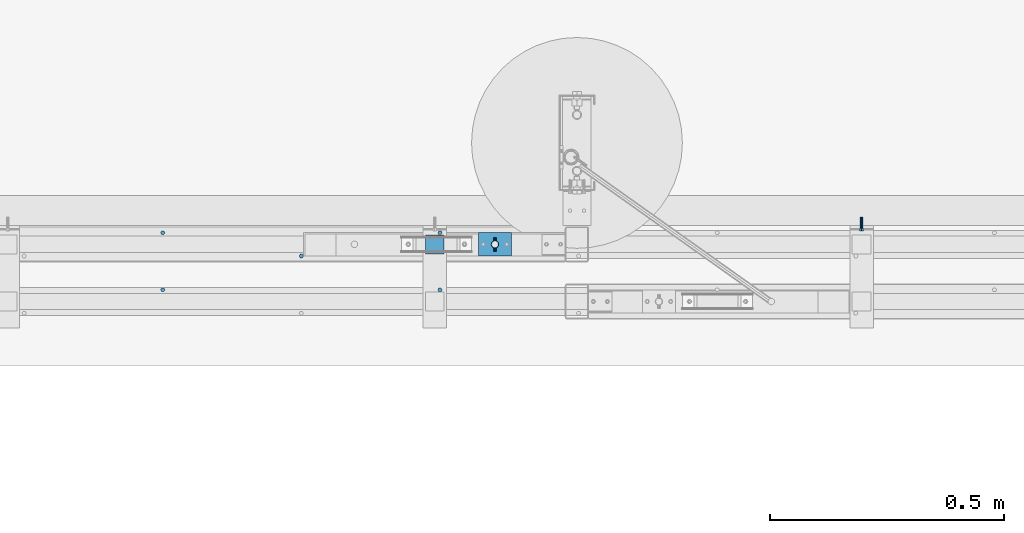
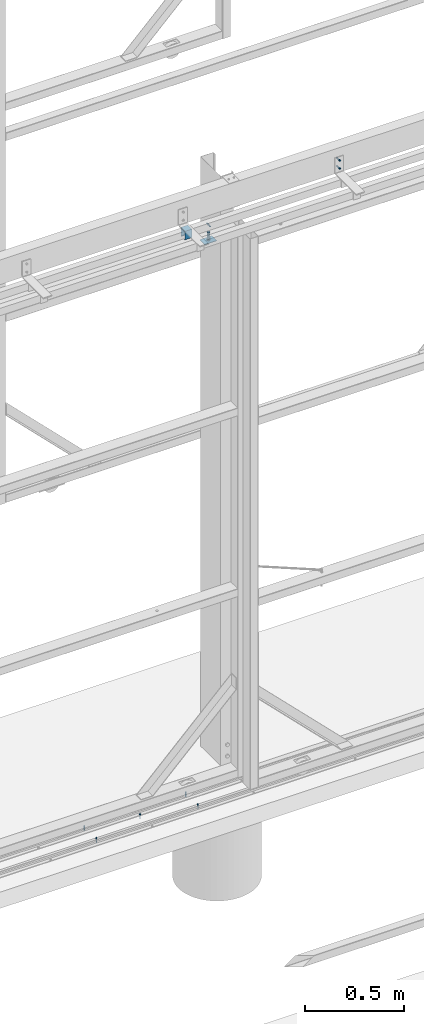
# One storey, part 40 of 91: 7 mechanical fasteners, 3 discrete accessories, 6 elements without a shape of their own.
"""IFC2X3 building model written with IfcOpenShell, lengths in millimetres."""

from ifc_helpers import new_model, si_unit, frame, origin_with_axes, origin_2d_with_axis, place, context, subcontext, project, spatial, polyline, circle, c_section, outline, extrude, source, transform, mapped, material, type_object, element, aggregate, save


model = new_model("IFC2X3")

# Units and contexts
model_context = context("Model", 3, precision=1e-05, world=origin_with_axes())
body_context = subcontext(model_context, "Body", "Model", "MODEL_VIEW")
ifc_project = project(units=[si_unit("LENGTHUNIT", "METRE", prefix="MILLI"), si_unit("AREAUNIT", "SQUARE_METRE"), si_unit("VOLUMEUNIT", "CUBIC_METRE"), si_unit("MASSUNIT", "GRAM", prefix="KILO"), si_unit("TIMEUNIT", "SECOND"), si_unit("PLANEANGLEUNIT", "RADIAN"), si_unit("SOLIDANGLEUNIT", "STERADIAN"), si_unit("THERMODYNAMICTEMPERATUREUNIT", "DEGREE_CELSIUS"), si_unit("LUMINOUSINTENSITYUNIT", "LUMEN")], contexts=[model_context])

# Site, building, storey
site_placement = place(None, origin_with_axes())
site = spatial("IfcSite", under=ifc_project, at=site_placement, Name="Undefined", CompositionType="ELEMENT")
building_placement = place(site_placement, origin_with_axes())
building = spatial("IfcBuilding", under=site, at=building_placement, Name="Undefined", CompositionType="ELEMENT")
storey_placement = place(building_placement, origin_with_axes())
storey = spatial("IfcBuildingStorey", under=building, at=storey_placement, Name="Undefined", CompositionType="ELEMENT", Elevation=0.0)

# Assembly, discrete accessory
assembly_1_placement = place(storey_placement, origin_with_axes())
assembly_1 = element("IfcElementAssembly", 1, at=assembly_1_placement, inside=storey, Name="ROD", AssemblyPlace="NOTDEFINED", PredefinedType="RIGID_FRAME")
ifc_material_1 = material(Name="STEEL/250")
discrete_accessory_type_1 = type_object("IfcDiscreteAccessoryType", Name="PLATE")
discrete_accessory_1_placement = place(assembly_1_placement, frame((-113968.34, 87737.15, 3324.5), z_axis=(0.0, 0.0, 1.0), x_axis=(0.0, -1.0, 0.0)))
discrete_accessory_1 = element("IfcDiscreteAccessory", 2, at=discrete_accessory_1_placement, type_object=discrete_accessory_type_1, material=ifc_material_1, Name="PLATE", ObjectType="PLT3*50", context=body_context, shape_type="SweptSolid", body=[
    extrude(outline(polyline([(0.0, 0.0), (50.0, 0.0), (50.0, 70.0), (0.0, 70.0), (0.0, 0.0)])), frame((0.0, 0.0, -1.5), z_axis=(0.0, 0.0, 1.0), x_axis=(1.0, 0.0, 0.0)), (0.0, 0.0, 1.0), 3.0),
])

# Assembly, mechanical fastener
assembly_2_placement = place(storey_placement, origin_with_axes())
assembly_2 = element("IfcElementAssembly", 3, at=assembly_2_placement, inside=storey, Name="SLIDING DOOR", AssemblyPlace="NOTDEFINED", PredefinedType="RIGID_FRAME")
ifc_material_2 = material(Name="8.8S")
discrete_accessory_type_2 = type_object("IfcDiscreteAccessoryType", Name="Bolt assembly")
shared_shape_1 = source(origin_with_axes(), body_context, "Body", "SweptSolid", [
    extrude(circle(Radius=8.0, at=origin_2d_with_axis()), frame((0.0, 0.0, 0.0), z_axis=(0.0, 1.0, 0.0), x_axis=(1.0, 0.0, 0.0)), (0.0, 0.0, 1.0), 50.1),
])
mechanical_fastener_1_placement = place(assembly_2_placement, frame((-113933.34, 87712.15, 3326.0), z_axis=(0.0, 1.0, 0.0), x_axis=(-1.0, 0.0, 0.0)))
mechanical_fastener_1 = element("IfcMechanicalFastener", 4, at=mechanical_fastener_1_placement, type_object=discrete_accessory_type_2, material=ifc_material_2, Name="Bolt assembly", NominalDiameter=10.0, NominalLength=50.0, context=body_context, shape_type="MappedRepresentation", body=[
    mapped(shared_shape_1, transform((0.0, 0.0, 0.0))),
])
aggregate(assembly_2, [mechanical_fastener_1])

# Discrete accessory
discrete_accessory_type_3 = type_object("IfcDiscreteAccessoryType", Name="SPRING PIN")
discrete_accessory_2_placement = place(assembly_1_placement, frame((-113933.34, 87697.15, 3421.0), z_axis=(1.0, 0.0, 0.0), x_axis=(0.0, 1.0, 0.0)))
discrete_accessory_2 = element("IfcDiscreteAccessory", 5, at=discrete_accessory_2_placement, type_object=discrete_accessory_type_3, material=ifc_material_1, Name="SPRING PIN", ObjectType="D6", context=body_context, shape_type="SweptSolid", body=[
    extrude(circle(Radius=3.0, at=origin_2d_with_axis()), frame((30.0, 0.0, 0.0), z_axis=(-1.0, 0.0, 0.0), x_axis=(0.0, -1.0, 0.0)), (0.0, 0.0, 1.0), 30.0),
])

aggregate(assembly_1, [discrete_accessory_2, discrete_accessory_1])

# Assembly, mechanical fastener
assembly_3_placement = place(storey_placement, origin_with_axes())
assembly_3 = element("IfcElementAssembly", 6, at=assembly_3_placement, inside=storey, Name="DOOR BRACKET", AssemblyPlace="NOTDEFINED", PredefinedType="RIGID_FRAME")
ifc_material_3 = material(Name="TEK_11TPIM")
shared_shape_2 = source(origin_with_axes(), body_context, "Body", "SweptSolid", [
    extrude(circle(Radius=3.0, at=origin_2d_with_axis()), frame((0.0, -6.0, 0.0), z_axis=(0.0, 1.0, 0.0), x_axis=(1.0, 0.0, 0.0)), (0.0, 0.0, 1.0), 6.1),
    extrude(outline(polyline([(4.61880215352, 0.0), (2.30940107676, 4.00000000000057), (-2.30940107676, 4.00000000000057), (-4.61880215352, 0.0), (-2.30940107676, -4.00000000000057), (2.30940107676, -4.00000000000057), (4.61880215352, 0.0)])), frame((0.0, -11.1000000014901, 0.0), z_axis=(0.0, 1.0, 0.0), x_axis=(1.0, 0.0, 0.0)), (0.0, 0.0, 1.0), 5.0),
    extrude(circle(Radius=3.0, at=origin_2d_with_axis()), frame((0.0, -6.10000000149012, 0.0), z_axis=(0.0, 1.0, 0.0), x_axis=(1.0, 0.0, 0.0)), (0.0, 0.0, 1.0), 25.0),
    extrude(circle(Radius=3.0, at=origin_2d_with_axis()), frame((0.0, -6.10000000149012, 0.0), z_axis=(0.0, 1.0, 0.0), x_axis=(1.0, 0.0, 0.0)), (0.0, 0.0, 1.0), 0.1),
    extrude(circle(Radius=3.0, at=origin_2d_with_axis()), frame((0.0, 0.0, 0.0), z_axis=(0.0, 1.0, 0.0), x_axis=(1.0, 0.0, 0.0)), (0.0, 0.0, 1.0), 0.1),
    extrude(outline(polyline([(3.46410161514, 0.0), (1.73205080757, 3.00000000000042), (-1.73205080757, 3.00000000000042), (-3.46410161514, 0.0), (-1.73205080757, -3.00000000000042), (1.73205080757, -3.00000000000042), (3.46410161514, 0.0)])), frame((0.0, 0.1, 0.0), z_axis=(0.0, 1.0, 0.0), x_axis=(1.0, 0.0, 0.0)), (0.0, 0.0, 1.0), 0.1),
])
mechanical_fastener_2_placement = place(assembly_3_placement, frame((-113150.84, 87752.15, 3524.0), z_axis=(1.0, 0.0, 0.0), x_axis=(0.0, 0.0, -1.0)))
mechanical_fastener_2 = element("IfcMechanicalFastener", 7, at=mechanical_fastener_2_placement, type_object=discrete_accessory_type_2, material=ifc_material_3, Name="Bolt assembly", NominalDiameter=6.0, NominalLength=25.0, context=body_context, shape_type="MappedRepresentation", body=[
    mapped(shared_shape_2, transform((0.0, 0.0, 0.0))),
    mapped(shared_shape_2, transform((50.0, 0.0, 0.0))),
])
aggregate(assembly_3, [mechanical_fastener_2])

# Assembly, mechanical fasteners
assembly_4_placement = place(storey_placement, origin_with_axes())
assembly_4 = element("IfcElementAssembly", 8, at=assembly_4_placement, inside=storey, Name="DOOR TRACK", AssemblyPlace="NOTDEFINED", PredefinedType="RIGID_FRAME")
ifc_material_4 = material(Name="TEK_10TPII")
shared_shape_3 = source(origin_with_axes(), body_context, "Body", "SweptSolid", [
    extrude(circle(Radius=4.07999992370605, at=origin_2d_with_axis()), frame((0.0, 0.0, 0.0), z_axis=(0.0, 1.0, 0.0), x_axis=(1.0, 0.0, 0.0)), (0.0, 0.0, 1.0), 3.1),
    extrude(outline(polyline([(4.61880215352, 0.0), (2.30940107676, 4.00000000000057), (-2.30940107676, 4.00000000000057), (-4.61880215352, 0.0), (-2.30940107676, -4.00000000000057), (2.30940107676, -4.00000000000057), (4.61880215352, 0.0)])), frame((0.0, -5.0, 0.0), z_axis=(0.0, 1.0, 0.0), x_axis=(1.0, 0.0, 0.0)), (0.0, 0.0, 1.0), 5.0),
    extrude(circle(Radius=3.07999992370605, at=origin_2d_with_axis()), frame((0.0, 0.0, 0.0), z_axis=(0.0, 1.0, 0.0), x_axis=(1.0, 0.0, 0.0)), (0.0, 0.0, 1.0), 25.0),
    extrude(circle(Radius=3.0, at=origin_2d_with_axis()), frame((0.0, 3.0, 0.0), z_axis=(0.0, 1.0, 0.0), x_axis=(1.0, 0.0, 0.0)), (0.0, 0.0, 1.0), 0.1),
    extrude(outline(polyline([(3.46410161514, 0.0), (1.73205080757, 3.00000000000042), (-1.73205080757, 3.00000000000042), (-3.46410161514, 0.0), (-1.73205080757, -3.00000000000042), (1.73205080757, -3.00000000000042), (3.46410161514, 0.0)])), frame((0.0, 3.10000000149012, 0.0), z_axis=(0.0, 1.0, 0.0), x_axis=(1.0, 0.0, 0.0)), (0.0, 0.0, 1.0), 0.1),
])
mechanical_fastener_3_placement = place(assembly_4_placement, frame((-114050.74, 87737.151953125, -54.0), z_axis=(0.0, 1.0, 0.0), x_axis=(1.0, 0.0, 0.0)))
mechanical_fastener_3 = element("IfcMechanicalFastener", 9, at=mechanical_fastener_3_placement, type_object=discrete_accessory_type_2, material=ifc_material_4, Name="Bolt assembly", NominalDiameter=6.15999984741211, NominalLength=25.0, context=body_context, shape_type="MappedRepresentation", body=[
    mapped(shared_shape_3, transform((0.0, 0.0, 0.0))),
])
mechanical_fastener_4_placement = place(assembly_4_placement, frame((-114346.64, 87687.151953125, -54.0), z_axis=(0.0, 1.0, 0.0), x_axis=(1.0, 0.0, 0.0)))
mechanical_fastener_4 = element("IfcMechanicalFastener", 10, at=mechanical_fastener_4_placement, type_object=discrete_accessory_type_2, material=ifc_material_4, Name="Bolt assembly", NominalDiameter=6.15999984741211, NominalLength=25.0, context=body_context, shape_type="MappedRepresentation", body=[
    mapped(shared_shape_3, transform((0.0, 0.0, 0.0))),
])
mechanical_fastener_5_placement = place(assembly_4_placement, frame((-114642.54, 87737.151953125, -54.0), z_axis=(0.0, 1.0, 0.0), x_axis=(1.0, 0.0, 0.0)))
mechanical_fastener_5 = element("IfcMechanicalFastener", 11, at=mechanical_fastener_5_placement, type_object=discrete_accessory_type_2, material=ifc_material_4, Name="Bolt assembly", NominalDiameter=6.15999984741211, NominalLength=25.0, context=body_context, shape_type="MappedRepresentation", body=[
    mapped(shared_shape_3, transform((0.0, 0.0, 0.0))),
])
aggregate(assembly_4, [mechanical_fastener_3, mechanical_fastener_4, mechanical_fastener_5])

assembly_5_placement = place(storey_placement, origin_with_axes())
assembly_5 = element("IfcElementAssembly", 12, at=assembly_5_placement, inside=storey, Name="DOOR TRACK", AssemblyPlace="NOTDEFINED", PredefinedType="RIGID_FRAME")
mechanical_fastener_6_placement = place(assembly_5_placement, frame((-114050.74, 87615.151953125, -54.0), z_axis=(0.0, 1.0, 0.0), x_axis=(1.0, 0.0, 0.0)))
mechanical_fastener_6 = element("IfcMechanicalFastener", 13, at=mechanical_fastener_6_placement, type_object=discrete_accessory_type_2, material=ifc_material_4, Name="Bolt assembly", NominalDiameter=6.15999984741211, NominalLength=25.0, context=body_context, shape_type="MappedRepresentation", body=[
    mapped(shared_shape_3, transform((0.0, 0.0, 0.0))),
])
mechanical_fastener_7_placement = place(assembly_5_placement, frame((-114642.54, 87615.151953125, -54.0), z_axis=(0.0, 1.0, 0.0), x_axis=(1.0, 0.0, 0.0)))
mechanical_fastener_7 = element("IfcMechanicalFastener", 14, at=mechanical_fastener_7_placement, type_object=discrete_accessory_type_2, material=ifc_material_4, Name="Bolt assembly", NominalDiameter=6.15999984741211, NominalLength=25.0, context=body_context, shape_type="MappedRepresentation", body=[
    mapped(shared_shape_3, transform((0.0, 0.0, 0.0))),
])
aggregate(assembly_5, [mechanical_fastener_6, mechanical_fastener_7])

# Assembly, discrete accessory
assembly_6_placement = place(storey_placement, origin_with_axes())
assembly_6 = element("IfcElementAssembly", 15, at=assembly_6_placement, inside=storey, Name="DOOR BRACKET", AssemblyPlace="NOTDEFINED", PredefinedType="RIGID_FRAME")
discrete_accessory_type_4 = type_object("IfcDiscreteAccessoryType", Name="SLIDING DOOR BRACKET")
discrete_accessory_3_placement = place(assembly_6_placement, frame((-114082.09, 87712.15, 3417.5), z_axis=(0.0, -1.0, 0.0), x_axis=(1.0, 0.0, 0.0)))
discrete_accessory_3 = element("IfcDiscreteAccessory", 16, at=discrete_accessory_3_placement, type_object=discrete_accessory_type_4, material=ifc_material_1, Name="SLIDING DOOR BRACKET", ObjectType="CC41-1.5-7-53", context=body_context, shape_type="SweptSolid", body=[
    extrude(c_section(Depth=41.0, Width=53.0, WallThickness=1.5, Girth=7.0, at=origin_2d_with_axis()), frame((40.0, 0.0, 0.0), z_axis=(-1.0, 0.0, 0.0), x_axis=(0.0, -1.0, 0.0)), (0.0, 0.0, 1.0), 40.0),
])
aggregate(assembly_6, [discrete_accessory_3])

save(model, "model.ifc")
